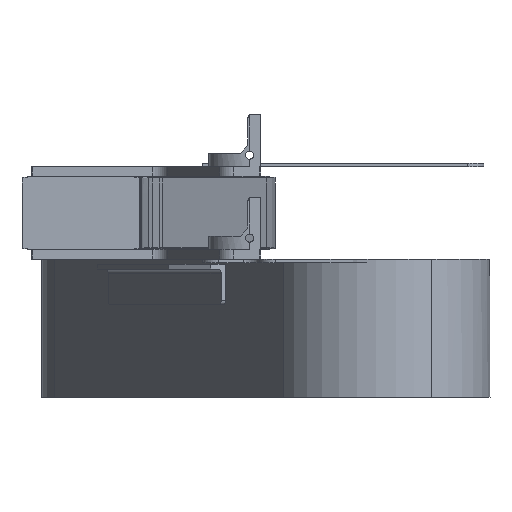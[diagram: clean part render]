
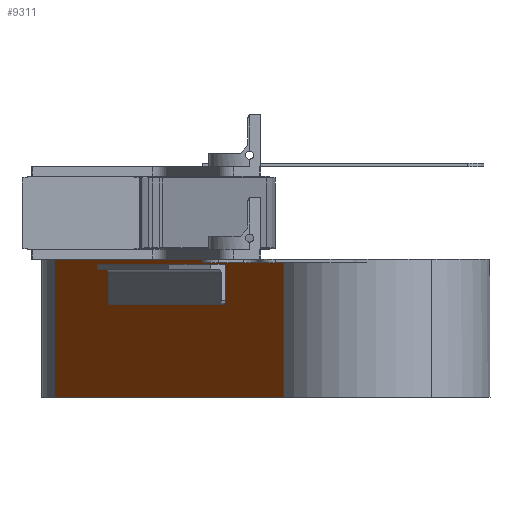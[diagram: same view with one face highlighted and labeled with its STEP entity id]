
A CAD part, left-side view. The second image highlights one B-rep face of the part: STEP entity #9311.
In plain terms, the highlighted planar face has unit normal (-0.469, 0.883, 0).
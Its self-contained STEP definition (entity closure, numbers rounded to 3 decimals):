
#1103 = VECTOR ( 'NONE', #20156, 1000. ) ;
#1955 = DIRECTION ( 'NONE',  ( 0.469, -0.883, 0. ) ) ;
#1962 = CARTESIAN_POINT ( 'NONE',  ( -98.852, 23.854, -60. ) ) ;
#2017 = CARTESIAN_POINT ( 'NONE',  ( -101.059, 22.68, -82.5 ) ) ;
#2112 = CARTESIAN_POINT ( 'NONE',  ( -31.675, 59.572, -57. ) ) ;
#2327 = DIRECTION ( 'NONE',  ( 0.883, 0.469, 0. ) ) ;
#2333 = CARTESIAN_POINT ( 'NONE',  ( -229.528, -45.628, -60. ) ) ;
#2518 = VECTOR ( 'NONE', #19876, 1000. ) ;
#2940 = EDGE_CURVE ( 'NONE', #10870, #7049, #9602, .T. ) ;
#3355 = CARTESIAN_POINT ( 'NONE',  ( -229.528, -45.628, -63. ) ) ;
#3414 = CARTESIAN_POINT ( 'NONE',  ( -98.852, 23.854, -63. ) ) ;
#3685 = CARTESIAN_POINT ( 'NONE',  ( -101.059, 22.68, -85. ) ) ;
#3755 = DIRECTION ( 'NONE',  ( -0.883, -0.469, 0. ) ) ;
#4139 = EDGE_CURVE ( 'NONE', #17877, #10870, #11531, .T. ) ;
#4269 = EDGE_LOOP ( 'NONE', ( #17759, #8169, #4382, #8678, #18210, #20662 ) ) ;
#4382 = ORIENTED_EDGE ( 'NONE', *, *, #17743, .T. ) ;
#4757 = CARTESIAN_POINT ( 'NONE',  ( -98.852, 23.854, -60. ) ) ;
#5066 = LINE ( 'NONE', #11921, #14300 ) ;
#5148 = LINE ( 'NONE', #1962, #9128 ) ;
#5551 = CARTESIAN_POINT ( 'NONE',  ( -229.528, -45.628, -82.5 ) ) ;
#6094 = VERTEX_POINT ( 'NONE', #4757 ) ;
#6196 = VECTOR ( 'NONE', #14834, 1000. ) ;
#6423 = DIRECTION ( 'NONE',  ( 0.469, -0.883, 0. ) ) ;
#6517 = ORIENTED_EDGE ( 'NONE', *, *, #2940, .F. ) ;
#6567 = ORIENTED_EDGE ( 'NONE', *, *, #8821, .T. ) ;
#6693 = PLANE ( 'NONE',  #8356 ) ;
#7049 = VERTEX_POINT ( 'NONE', #2112 ) ;
#7209 = VERTEX_POINT ( 'NONE', #5551 ) ;
#7887 = CARTESIAN_POINT ( 'NONE',  ( -227.321, -44.455, -82.5 ) ) ;
#8033 = EDGE_CURVE ( 'NONE', #7209, #8410, #12811, .T. ) ;
#8169 = ORIENTED_EDGE ( 'NONE', *, *, #15464, .T. ) ;
#8312 = DIRECTION ( 'NONE',  ( 0.883, 0.469, 0. ) ) ;
#8345 = ORIENTED_EDGE ( 'NONE', *, *, #14479, .T. ) ;
#8356 = AXIS2_PLACEMENT_3D ( 'NONE', #14482, #1955, #8312 ) ;
#8410 = VERTEX_POINT ( 'NONE', #20513 ) ;
#8678 = ORIENTED_EDGE ( 'NONE', *, *, #17563, .F. ) ;
#8821 = EDGE_CURVE ( 'NONE', #14771, #7049, #5066, .T. ) ;
#9128 = VECTOR ( 'NONE', #13172, 1000. ) ;
#9311 = ADVANCED_FACE ( 'NONE', ( #18775, #9509 ), #6693, .F. ) ;
#9509 = FACE_BOUND ( 'NONE', #4269, .T. ) ;
#9566 = DIRECTION ( 'NONE',  ( -0.883, -0.469, 0. ) ) ;
#9602 = LINE ( 'NONE', #17112, #1103 ) ;
#9724 = DIRECTION ( 'NONE',  ( 0., 0., 1. ) ) ;
#9838 = CARTESIAN_POINT ( 'NONE',  ( -31.675, 59.572, -142. ) ) ;
#10870 = VERTEX_POINT ( 'NONE', #9838 ) ;
#11171 = AXIS2_PLACEMENT_3D ( 'NONE', #7887, #6423, #9566 ) ;
#11227 = CARTESIAN_POINT ( 'NONE',  ( -98.852, 23.854, -82.5 ) ) ;
#11531 = LINE ( 'NONE', #16463, #2518 ) ;
#11921 = CARTESIAN_POINT ( 'NONE',  ( -296.559, -81.269, -57. ) ) ;
#12039 = CIRCLE ( 'NONE', #15964, 2.5 ) ;
#12163 = LINE ( 'NONE', #3414, #17182 ) ;
#12811 = CIRCLE ( 'NONE', #11171, 2.5 ) ;
#13172 = DIRECTION ( 'NONE',  ( -0.883, -0.469, 0. ) ) ;
#13266 = VERTEX_POINT ( 'NONE', #3685 ) ;
#13346 = EDGE_CURVE ( 'NONE', #13266, #17232, #12039, .T. ) ;
#13520 = EDGE_CURVE ( 'NONE', #13266, #8410, #19266, .T. ) ;
#13530 = VECTOR ( 'NONE', #18603, 1000. ) ;
#14087 = VERTEX_POINT ( 'NONE', #2333 ) ;
#14300 = VECTOR ( 'NONE', #2327, 1000. ) ;
#14479 = EDGE_CURVE ( 'NONE', #17877, #14771, #16446, .T. ) ;
#14482 = CARTESIAN_POINT ( 'NONE',  ( -296.559, -81.269, -142. ) ) ;
#14547 = ORIENTED_EDGE ( 'NONE', *, *, #4139, .F. ) ;
#14675 = DIRECTION ( 'NONE',  ( 0.469, -0.883, 0. ) ) ;
#14771 = VERTEX_POINT ( 'NONE', #19188 ) ;
#14834 = DIRECTION ( 'NONE',  ( 0., 0., 1. ) ) ;
#15464 = EDGE_CURVE ( 'NONE', #17232, #6094, #12163, .T. ) ;
#15964 = AXIS2_PLACEMENT_3D ( 'NONE', #2017, #14675, #3755 ) ;
#16446 = LINE ( 'NONE', #18134, #6196 ) ;
#16463 = CARTESIAN_POINT ( 'NONE',  ( -296.559, -81.269, -142. ) ) ;
#17059 = CARTESIAN_POINT ( 'NONE',  ( -98.852, 23.854, -85. ) ) ;
#17112 = CARTESIAN_POINT ( 'NONE',  ( -31.675, 59.572, -142. ) ) ;
#17182 = VECTOR ( 'NONE', #9724, 1000. ) ;
#17232 = VERTEX_POINT ( 'NONE', #11227 ) ;
#17248 = EDGE_LOOP ( 'NONE', ( #6567, #6517, #14547, #8345 ) ) ;
#17563 = EDGE_CURVE ( 'NONE', #7209, #14087, #17928, .T. ) ;
#17743 = EDGE_CURVE ( 'NONE', #6094, #14087, #5148, .T. ) ;
#17759 = ORIENTED_EDGE ( 'NONE', *, *, #13346, .T. ) ;
#17772 = DIRECTION ( 'NONE',  ( 0., 0., 1. ) ) ;
#17877 = VERTEX_POINT ( 'NONE', #18741 ) ;
#17928 = LINE ( 'NONE', #3355, #20151 ) ;
#18134 = CARTESIAN_POINT ( 'NONE',  ( -296.559, -81.269, -142. ) ) ;
#18210 = ORIENTED_EDGE ( 'NONE', *, *, #8033, .T. ) ;
#18603 = DIRECTION ( 'NONE',  ( -0.883, -0.469, 0. ) ) ;
#18741 = CARTESIAN_POINT ( 'NONE',  ( -296.559, -81.269, -142. ) ) ;
#18775 = FACE_OUTER_BOUND ( 'NONE', #17248, .T. ) ;
#19188 = CARTESIAN_POINT ( 'NONE',  ( -296.559, -81.269, -57. ) ) ;
#19266 = LINE ( 'NONE', #17059, #13530 ) ;
#19876 = DIRECTION ( 'NONE',  ( 0.883, 0.469, 0. ) ) ;
#20151 = VECTOR ( 'NONE', #17772, 1000. ) ;
#20156 = DIRECTION ( 'NONE',  ( 0., 0., 1. ) ) ;
#20513 = CARTESIAN_POINT ( 'NONE',  ( -227.321, -44.455, -85. ) ) ;
#20662 = ORIENTED_EDGE ( 'NONE', *, *, #13520, .F. ) ;
